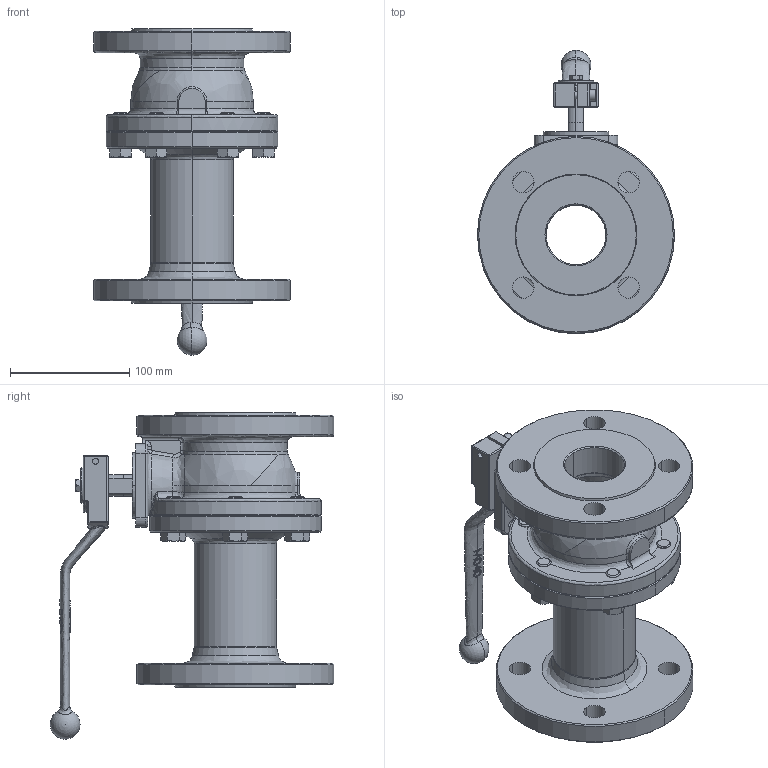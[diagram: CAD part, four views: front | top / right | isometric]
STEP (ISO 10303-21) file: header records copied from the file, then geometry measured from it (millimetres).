
FILE_DESCRIPTION (( 'STEP AP214' ), '1' );
FILE_NAME ('0340050.STEP', '2015-06-15T07:49:41', ( 'pere' ), ( '' ), 'SwSTEP 2.0', 'SolidWorks 2013', '' );
FILE_SCHEMA (( 'AUTOMOTIVE_DESIGN' ));
Length unit declared in the file: millimetre
Products named in the file (9): DIN 912 M6 x 20 --- 20C_DIN 912 M6 x 20 --- 20C; ISO 4017 - M12 x 30-N_ISO 4017 - M12 x 30-N; ISO 4017 - M6 x 12-N_ISO 4017 - M6 x 12-N; 5130_17; M040; EPI50Q; 0340050L; 0540050C; 0340050
Assembly tree (13 placements, depth 2):
  0340050
    0540050C
    0340050L
    EPI50Q
    M040
    5130_17
    ISO 4017 - M6 x 12-N_ISO 4017 - M6 x 12-N
    ISO 4017 - M12 x 30-N_ISO 4017 - M12 x 30-N  x6
    DIN 912 M6 x 20 --- 20C_DIN 912 M6 x 20 --- 20C
Bounding box: 165 x 237.68 x 273.5 mm (x, y, z)
Volume: 1572979.3 mm3; surface area: 294158.9 mm2
Topology: 13 solids, 13 shells, 721 faces, 1718 edges, 1023 vertices
Faces by surface type: plane 220, cylinder 205, cone 134, bspline 114, torus 32, sphere 16
Entity records: 35557 total; most frequent: CARTESIAN_POINT 22226, ORIENTED_EDGE 2774, DIRECTION 2536, EDGE_CURVE 1387, AXIS2_PLACEMENT_3D 1037, VERTEX_POINT 850, EDGE_LOOP 659, ADVANCED_FACE 576
